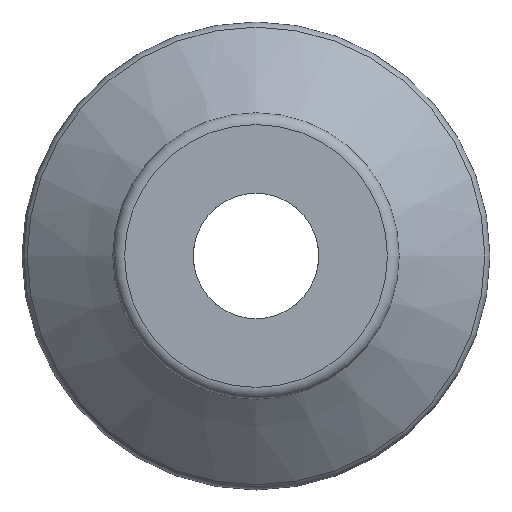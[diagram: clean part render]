
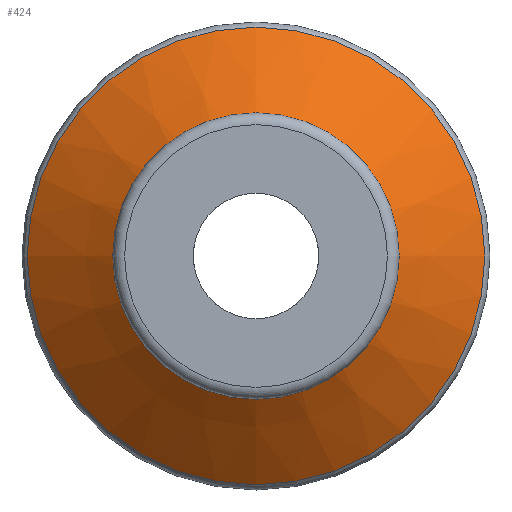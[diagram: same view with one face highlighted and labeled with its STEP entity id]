
A CAD part, front view. The second image highlights one B-rep face of the part: STEP entity #424.
In plain terms, the highlighted conical face has half-angle 50.59 degrees and reference radius 9.6 mm.
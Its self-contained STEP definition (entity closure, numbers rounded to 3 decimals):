
#35 = DIRECTION ( 'NONE',  ( 0., 1., 0. ) ) ;
#88 = ORIENTED_EDGE ( 'NONE', *, *, #942, .T. ) ;
#224 = DIRECTION ( 'NONE',  ( 0., -1., 0. ) ) ;
#289 = DIRECTION ( 'NONE',  ( 0., 0., 1. ) ) ;
#302 = CIRCLE ( 'NONE', #482, 19.412 ) ;
#379 = CARTESIAN_POINT ( 'NONE',  ( 174.859, 108.578, 0. ) ) ;
#383 = ORIENTED_EDGE ( 'NONE', *, *, #1046, .F. ) ;
#384 = DIRECTION ( 'NONE',  ( 0., 0., -1. ) ) ;
#424 = ADVANCED_FACE ( 'NONE', ( #466, #721 ), #685, .T. ) ;
#466 = FACE_BOUND ( 'NONE', #1075, .T. ) ;
#471 = AXIS2_PLACEMENT_3D ( 'NONE', #1069, #649, #384 ) ;
#482 = AXIS2_PLACEMENT_3D ( 'NONE', #982, #224, #918 ) ;
#589 = VERTEX_POINT ( 'NONE', #849 ) ;
#637 = CIRCLE ( 'NONE', #471, 9.6 ) ;
#649 = DIRECTION ( 'NONE',  ( 0., -1., 0. ) ) ;
#678 = VERTEX_POINT ( 'NONE', #1017 ) ;
#685 = CONICAL_SURFACE ( 'NONE', #862, 9.6, 0.883 ) ;
#721 = FACE_OUTER_BOUND ( 'NONE', #1094, .T. ) ;
#849 = CARTESIAN_POINT ( 'NONE',  ( 174.859, 116.641, -19.412 ) ) ;
#862 = AXIS2_PLACEMENT_3D ( 'NONE', #379, #35, #289 ) ;
#918 = DIRECTION ( 'NONE',  ( 0., 0., -1. ) ) ;
#942 = EDGE_CURVE ( 'NONE', #589, #589, #302, .T. ) ;
#982 = CARTESIAN_POINT ( 'NONE',  ( 174.859, 116.641, 0. ) ) ;
#1017 = CARTESIAN_POINT ( 'NONE',  ( 174.859, 108.578, -9.6 ) ) ;
#1046 = EDGE_CURVE ( 'NONE', #678, #678, #637, .T. ) ;
#1069 = CARTESIAN_POINT ( 'NONE',  ( 174.859, 108.578, 0. ) ) ;
#1075 = EDGE_LOOP ( 'NONE', ( #383 ) ) ;
#1094 = EDGE_LOOP ( 'NONE', ( #88 ) ) ;
